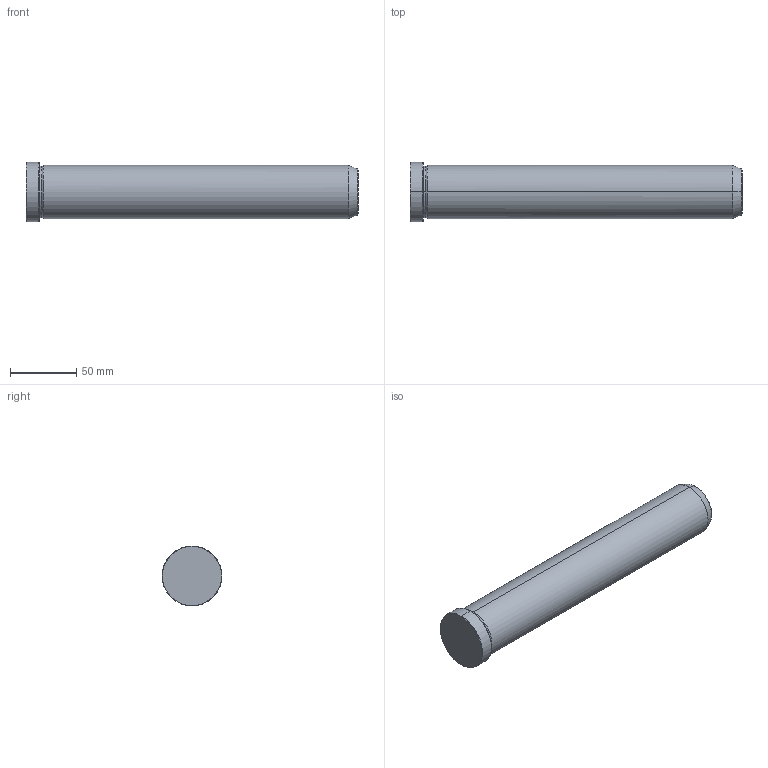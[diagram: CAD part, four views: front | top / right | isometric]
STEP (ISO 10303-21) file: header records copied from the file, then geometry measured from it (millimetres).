
FILE_DESCRIPTION(('CATIA V5 STEP Exchange'),'2;1');
FILE_NAME('C:\Users\Utente\Desktop\IO LAVORO\3D X SITO CF\X SITO\PLASTICA\549\549-40X250.stp','2021-12-18T08:13:49+00:00',('none'),('none'),'CATIA Version 5 Release 20 GA (IN-10)','CATIA V5 STEP AP203','none');
FILE_SCHEMA(('CONFIG_CONTROL_DESIGN'));
Length unit declared in the file: millimetre
Products named in the file (1): 549-40X250
Bounding box: 250 x 45 x 45 mm (x, y, z)
Volume: 316139.5 mm3; surface area: 34429 mm2
Topology: 1 solids, 1 shells, 19 faces, 56 edges, 40 vertices
Faces by surface type: cone 8, cylinder 6, plane 3, torus 2
Entity records: 736 total; most frequent: CARTESIAN_POINT 192, ORIENTED_EDGE 112, DIRECTION 86, EDGE_CURVE 56, AXIS2_PLACEMENT_3D 54, VERTEX_POINT 40, CIRCLE 34, EDGE_LOOP 20
